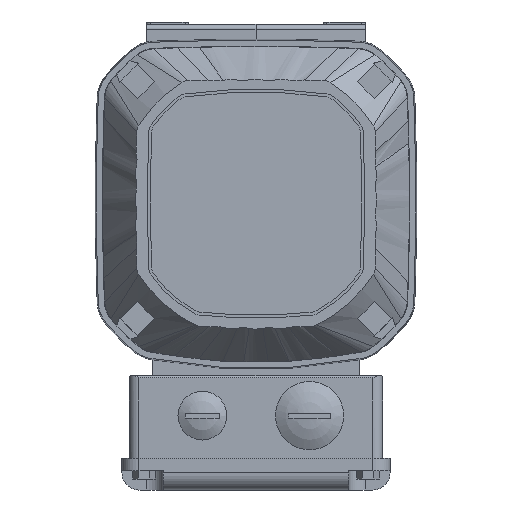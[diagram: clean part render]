
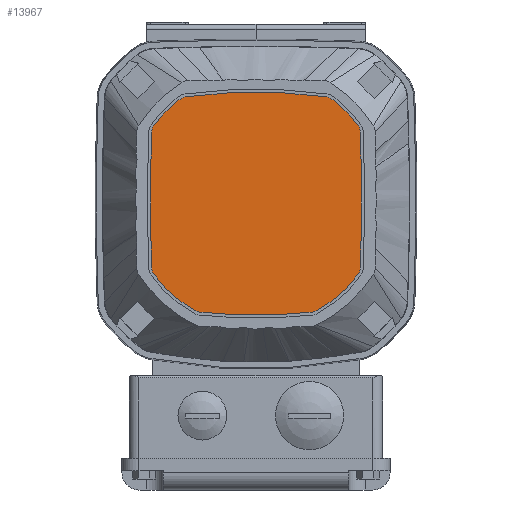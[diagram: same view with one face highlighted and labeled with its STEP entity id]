
A CAD part, left-side view. The second image highlights one B-rep face of the part: STEP entity #13967.
In plain terms, the highlighted planar face has unit normal (-1, 0, 0).
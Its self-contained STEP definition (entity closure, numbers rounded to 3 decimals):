
#857=PLANE('',#15417);
#1583=FACE_OUTER_BOUND('',#2373,.T.);
#2373=EDGE_LOOP('',(#12877,#12878,#12879,#12880,#12881,#12882,#12883,#12884,
#12885,#12886,#12887,#12888,#12889,#12890,#12891,#12892));
#2466=CIRCLE('',#14094,212.8);
#2469=CIRCLE('',#14098,209.8);
#3139=CIRCLE('',#15390,4.8);
#3140=CIRCLE('',#15392,51.8);
#3141=CIRCLE('',#15394,4.8);
#3142=CIRCLE('',#15396,1047.2);
#3143=CIRCLE('',#15398,4.8);
#3144=CIRCLE('',#15400,51.8);
#3145=CIRCLE('',#15402,4.8);
#3146=CIRCLE('',#15404,4.8);
#3147=CIRCLE('',#15406,51.8);
#3148=CIRCLE('',#15408,4.8);
#3149=CIRCLE('',#15410,1047.2);
#3150=CIRCLE('',#15412,4.8);
#3151=CIRCLE('',#15414,51.8);
#3152=CIRCLE('',#15416,4.8);
#5676=VERTEX_POINT('',#19722);
#5677=VERTEX_POINT('',#19723);
#5682=VERTEX_POINT('',#19734);
#5683=VERTEX_POINT('',#19736);
#6909=VERTEX_POINT('',#26001);
#6910=VERTEX_POINT('',#26005);
#6911=VERTEX_POINT('',#26009);
#6912=VERTEX_POINT('',#26013);
#6913=VERTEX_POINT('',#26017);
#6914=VERTEX_POINT('',#26021);
#6915=VERTEX_POINT('',#26027);
#6916=VERTEX_POINT('',#26031);
#6917=VERTEX_POINT('',#26035);
#6918=VERTEX_POINT('',#26039);
#6919=VERTEX_POINT('',#26043);
#6920=VERTEX_POINT('',#26047);
#7066=EDGE_CURVE('',#5676,#5677,#2466,.T.);
#7072=EDGE_CURVE('',#5682,#5683,#2469,.T.);
#8914=EDGE_CURVE('',#6909,#5676,#3139,.T.);
#8916=EDGE_CURVE('',#6910,#6909,#3140,.T.);
#8918=EDGE_CURVE('',#6911,#6910,#3141,.T.);
#8920=EDGE_CURVE('',#6912,#6911,#3142,.T.);
#8922=EDGE_CURVE('',#6913,#6912,#3143,.T.);
#8924=EDGE_CURVE('',#6914,#6913,#3144,.T.);
#8925=EDGE_CURVE('',#5683,#6914,#3145,.T.);
#8927=EDGE_CURVE('',#6915,#5682,#3146,.T.);
#8929=EDGE_CURVE('',#6916,#6915,#3147,.T.);
#8931=EDGE_CURVE('',#6917,#6916,#3148,.T.);
#8933=EDGE_CURVE('',#6918,#6917,#3149,.T.);
#8935=EDGE_CURVE('',#6919,#6918,#3150,.T.);
#8937=EDGE_CURVE('',#6920,#6919,#3151,.T.);
#8938=EDGE_CURVE('',#5677,#6920,#3152,.T.);
#12877=ORIENTED_EDGE('',*,*,#8937,.F.);
#12878=ORIENTED_EDGE('',*,*,#8938,.F.);
#12879=ORIENTED_EDGE('',*,*,#7066,.F.);
#12880=ORIENTED_EDGE('',*,*,#8914,.F.);
#12881=ORIENTED_EDGE('',*,*,#8916,.F.);
#12882=ORIENTED_EDGE('',*,*,#8918,.F.);
#12883=ORIENTED_EDGE('',*,*,#8920,.F.);
#12884=ORIENTED_EDGE('',*,*,#8922,.F.);
#12885=ORIENTED_EDGE('',*,*,#8924,.F.);
#12886=ORIENTED_EDGE('',*,*,#8925,.F.);
#12887=ORIENTED_EDGE('',*,*,#7072,.F.);
#12888=ORIENTED_EDGE('',*,*,#8927,.F.);
#12889=ORIENTED_EDGE('',*,*,#8929,.F.);
#12890=ORIENTED_EDGE('',*,*,#8931,.F.);
#12891=ORIENTED_EDGE('',*,*,#8933,.F.);
#12892=ORIENTED_EDGE('',*,*,#8935,.F.);
#13967=ADVANCED_FACE('',(#1583),#857,.T.);
#14094=AXIS2_PLACEMENT_3D('',#19724,#15600,#15601);
#14098=AXIS2_PLACEMENT_3D('',#19737,#15611,#15612);
#15390=AXIS2_PLACEMENT_3D('',#26003,#19242,#19243);
#15392=AXIS2_PLACEMENT_3D('',#26007,#19247,#19248);
#15394=AXIS2_PLACEMENT_3D('',#26011,#19252,#19253);
#15396=AXIS2_PLACEMENT_3D('',#26015,#19257,#19258);
#15398=AXIS2_PLACEMENT_3D('',#26019,#19262,#19263);
#15400=AXIS2_PLACEMENT_3D('',#26023,#19267,#19268);
#15402=AXIS2_PLACEMENT_3D('',#26025,#19271,#19272);
#15404=AXIS2_PLACEMENT_3D('',#26029,#19276,#19277);
#15406=AXIS2_PLACEMENT_3D('',#26033,#19281,#19282);
#15408=AXIS2_PLACEMENT_3D('',#26037,#19286,#19287);
#15410=AXIS2_PLACEMENT_3D('',#26041,#19291,#19292);
#15412=AXIS2_PLACEMENT_3D('',#26045,#19296,#19297);
#15414=AXIS2_PLACEMENT_3D('',#26049,#19301,#19302);
#15416=AXIS2_PLACEMENT_3D('',#26051,#19305,#19306);
#15417=AXIS2_PLACEMENT_3D('',#26052,#19307,#19308);
#15600=DIRECTION('center_axis',(1.,0.,0.));
#15601=DIRECTION('ref_axis',(0.,0.,
1.));
#15611=DIRECTION('center_axis',(1.,0.,0.));
#15612=DIRECTION('ref_axis',(0.,0.,
1.));
#19242=DIRECTION('center_axis',(1.,0.,0.));
#19243=DIRECTION('ref_axis',(0.,0.,
1.));
#19247=DIRECTION('center_axis',(1.,0.,0.));
#19248=DIRECTION('ref_axis',(0.,0.,
1.));
#19252=DIRECTION('center_axis',(1.,0.,0.));
#19253=DIRECTION('ref_axis',(0.,0.,
1.));
#19257=DIRECTION('center_axis',(1.,0.,0.));
#19258=DIRECTION('ref_axis',(0.,0.,
1.));
#19262=DIRECTION('center_axis',(1.,0.,0.));
#19263=DIRECTION('ref_axis',(0.,0.,
1.));
#19267=DIRECTION('center_axis',(1.,0.,0.));
#19268=DIRECTION('ref_axis',(0.,0.,
1.));
#19271=DIRECTION('center_axis',(1.,0.,0.));
#19272=DIRECTION('ref_axis',(0.,0.,
1.));
#19276=DIRECTION('center_axis',(1.,0.,0.));
#19277=DIRECTION('ref_axis',(0.,0.,
1.));
#19281=DIRECTION('center_axis',(1.,0.,0.));
#19282=DIRECTION('ref_axis',(0.,0.,
1.));
#19286=DIRECTION('center_axis',(1.,0.,0.));
#19287=DIRECTION('ref_axis',(0.,0.,
1.));
#19291=DIRECTION('center_axis',(1.,0.,0.));
#19292=DIRECTION('ref_axis',(0.,0.,
1.));
#19296=DIRECTION('center_axis',(1.,0.,0.));
#19297=DIRECTION('ref_axis',(0.,0.,
1.));
#19301=DIRECTION('center_axis',(1.,0.,0.));
#19302=DIRECTION('ref_axis',(0.,0.,
1.));
#19305=DIRECTION('center_axis',(1.,0.,0.));
#19306=DIRECTION('ref_axis',(0.,0.,
1.));
#19307=DIRECTION('center_axis',(-1.,0.,0.));
#19308=DIRECTION('ref_axis',(0.,-1.,0.));
#19722=CARTESIAN_POINT('',(-263.2,-22.984,-69.055));
#19723=CARTESIAN_POINT('',(-263.2,22.984,-69.055));
#19724=CARTESIAN_POINT('Origin',(-263.2,0.,
142.5));
#19734=CARTESIAN_POINT('',(-263.2,28.942,19.294));
#19736=CARTESIAN_POINT('',(-263.2,-28.942,19.294));
#19737=CARTESIAN_POINT('Origin',(-263.2,0.,
-188.5));
#26001=CARTESIAN_POINT('',(-263.2,-24.76,-68.499));
#26003=CARTESIAN_POINT('Origin',(-263.2,-22.465,-64.283));
#26005=CARTESIAN_POINT('',(-263.2,-41.978,-53.349));
#26007=CARTESIAN_POINT('Origin',(-263.2,0.,-23.));
#26009=CARTESIAN_POINT('',(-263.2,-42.886,-50.664));
#26011=CARTESIAN_POINT('Origin',(-263.2,-38.088,-50.537));
#26013=CARTESIAN_POINT('',(-263.2,-42.886,4.664));
#26015=CARTESIAN_POINT('Origin',(-263.2,1003.948,-23.));
#26017=CARTESIAN_POINT('',(-263.2,-41.978,7.349));
#26019=CARTESIAN_POINT('Origin',(-263.2,-38.088,4.537));
#26021=CARTESIAN_POINT('',(-263.2,-31.168,18.374));
#26023=CARTESIAN_POINT('Origin',(-263.2,0.,-23.));
#26025=CARTESIAN_POINT('Origin',(-263.2,-28.28,14.54));
#26027=CARTESIAN_POINT('',(-263.2,31.168,18.374));
#26029=CARTESIAN_POINT('Origin',(-263.2,28.28,14.54));
#26031=CARTESIAN_POINT('',(-263.2,41.978,7.349));
#26033=CARTESIAN_POINT('Origin',(-263.2,0.,-23.));
#26035=CARTESIAN_POINT('',(-263.2,42.886,4.664));
#26037=CARTESIAN_POINT('Origin',(-263.2,38.088,4.537));
#26039=CARTESIAN_POINT('',(-263.2,42.886,-50.664));
#26041=CARTESIAN_POINT('Origin',(-263.2,-1003.948,-23.));
#26043=CARTESIAN_POINT('',(-263.2,41.978,-53.349));
#26045=CARTESIAN_POINT('Origin',(-263.2,38.088,-50.537));
#26047=CARTESIAN_POINT('',(-263.2,24.76,-68.499));
#26049=CARTESIAN_POINT('Origin',(-263.2,0.,-23.));
#26051=CARTESIAN_POINT('Origin',(-263.2,22.465,-64.283));
#26052=CARTESIAN_POINT('Origin',(-263.2,21.966,-9.09));
